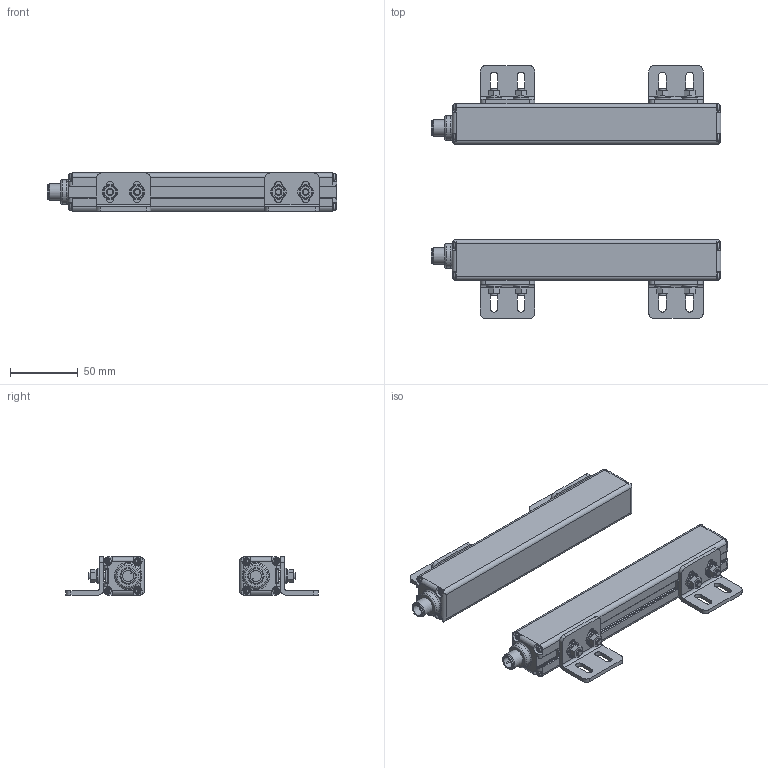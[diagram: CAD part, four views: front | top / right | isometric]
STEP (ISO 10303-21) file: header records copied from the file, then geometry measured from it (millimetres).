
FILE_DESCRIPTION( ( 'STEP AP203' ), '1' );
FILE_NAME( 'p:/temp/worker_42/temp/exporttempdir_3660_339_6N0RY/format_1/OY5100.stp', '2021-10-15T07:35:30', ( 'License CC BY-ND 4.0' ), ( 'CADENAS' ), ' ', 'PARTsolutions', ' ' );
FILE_SCHEMA( ( 'CONFIG_CONTROL_DESIGN' ) );
Length unit declared in the file: millimetre
Products named in the file (3): OY5100; _OY5100_P1; _OY5100_P2
Assembly tree (2 placements, depth 2):
  OY5100
    _OY5100_P1
    _OY5100_P2
Bounding box: 213 x 186 x 28 mm (x, y, z)
Volume: 345122.8 mm3; surface area: 75106 mm2
Topology: 2 solids, 2 shells, 874 faces, 2280 edges, 1466 vertices
Faces by surface type: plane 536, cylinder 308, torus 28, cone 2
Full cylindrical faces by diameter (mm): 5 x32, 8.4 x2, 9.68 x8, 10.5 x2, 11.44 x8, 12 x2, 18 x2
Entity records: 26580 total; most frequent: CARTESIAN_POINT 4741, DIRECTION 4586, ORIENTED_EDGE 4384, EDGE_CURVE 2192, AXIS2_PLACEMENT_3D 1549, LINE 1488, VECTOR 1488, VERTEX_POINT 1464
